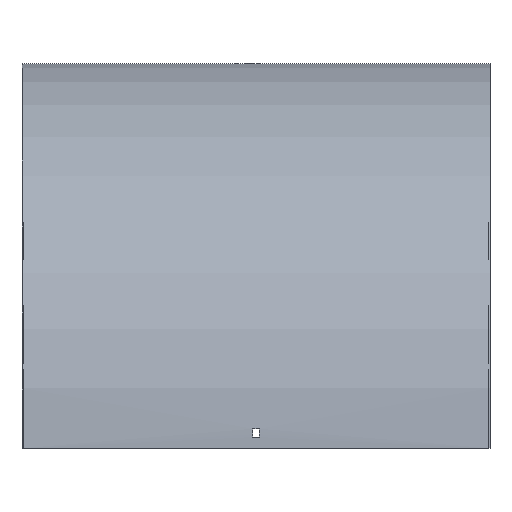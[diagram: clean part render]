
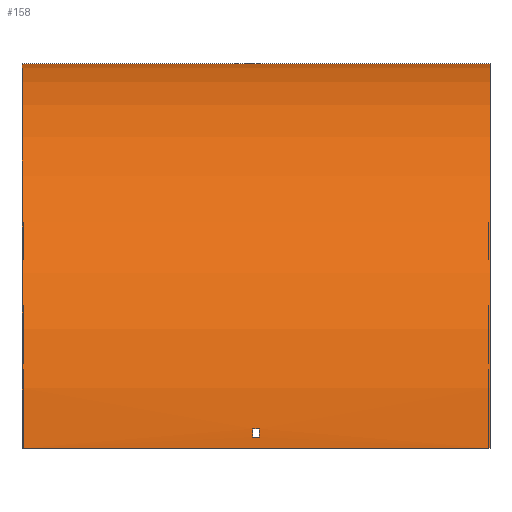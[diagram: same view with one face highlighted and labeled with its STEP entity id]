
A CAD part, top view. The second image highlights one B-rep face of the part: STEP entity #158.
In plain terms, the highlighted cylindrical face has radius 414 mm (diameter 828 mm), a partial arc.
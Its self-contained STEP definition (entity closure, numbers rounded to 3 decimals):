
#1 = ORIENTED_EDGE ( 'NONE', *, *, #324, .T. ) ;
#8 = DIRECTION ( 'NONE',  ( -1., 0., 0. ) ) ;
#10 = CARTESIAN_POINT ( 'NONE',  ( 3.25, -393., 413.467 ) ) ;
#16 = CARTESIAN_POINT ( 'NONE',  ( 251.5, -0.533, 21. ) ) ;
#18 = CIRCLE ( 'NONE', #365, 414. ) ;
#21 = EDGE_CURVE ( 'NONE', #177, #273, #175, .T. ) ;
#22 = AXIS2_PLACEMENT_3D ( 'NONE', #457, #235, #333 ) ;
#26 = CARTESIAN_POINT ( 'NONE',  ( 3.25, -0.174, 12. ) ) ;
#30 = CARTESIAN_POINT ( 'NONE',  ( -3.25, -0.533, 21. ) ) ;
#34 = CARTESIAN_POINT ( 'NONE',  ( 3.25, -402., 413.826 ) ) ;
#39 = DIRECTION ( 'NONE',  ( 0., 0., -1. ) ) ;
#44 = VECTOR ( 'NONE', #548, 1000. ) ;
#48 = CIRCLE ( 'NONE', #395, 414. ) ;
#49 = DIRECTION ( 'NONE',  ( 1., 0., 0. ) ) ;
#53 = LINE ( 'NONE', #431, #419 ) ;
#55 = CARTESIAN_POINT ( 'NONE',  ( -251.5, 0., 0. ) ) ;
#65 = DIRECTION ( 'NONE',  ( 1., 0., 0. ) ) ;
#71 = ORIENTED_EDGE ( 'NONE', *, *, #286, .F. ) ;
#82 = DIRECTION ( 'NONE',  ( 1., 0., 0. ) ) ;
#90 = CARTESIAN_POINT ( 'NONE',  ( 3.25, -0.533, 21. ) ) ;
#91 = CARTESIAN_POINT ( 'NONE',  ( 251.5, 0., 0. ) ) ;
#96 = DIRECTION ( 'NONE',  ( -1., 0., 0. ) ) ;
#103 = CARTESIAN_POINT ( 'NONE',  ( 251.5, -393., 413.467 ) ) ;
#113 = ORIENTED_EDGE ( 'NONE', *, *, #160, .F. ) ;
#128 = CARTESIAN_POINT ( 'NONE',  ( 3.25, -414., 0. ) ) ;
#135 = DIRECTION ( 'NONE',  ( 0., 0., -1. ) ) ;
#141 = CYLINDRICAL_SURFACE ( 'NONE', #442, 414. ) ;
#145 = ORIENTED_EDGE ( 'NONE', *, *, #229, .F. ) ;
#151 = DIRECTION ( 'NONE',  ( -1., 0., 0. ) ) ;
#154 = VERTEX_POINT ( 'NONE', #91 ) ;
#156 = CIRCLE ( 'NONE', #446, 414. ) ;
#158 = ADVANCED_FACE ( 'NONE', ( #231, #243, #330 ), #141, .T. ) ;
#159 = ORIENTED_EDGE ( 'NONE', *, *, #585, .F. ) ;
#160 = EDGE_CURVE ( 'NONE', #163, #396, #423, .T. ) ;
#163 = VERTEX_POINT ( 'NONE', #434 ) ;
#164 = CARTESIAN_POINT ( 'NONE',  ( -3.25, -414., 0. ) ) ;
#175 = LINE ( 'NONE', #276, #401 ) ;
#177 = VERTEX_POINT ( 'NONE', #382 ) ;
#178 = AXIS2_PLACEMENT_3D ( 'NONE', #509, #234, #135 ) ;
#183 = DIRECTION ( 'NONE',  ( 0., 0., -1. ) ) ;
#205 = VECTOR ( 'NONE', #96, 1000. ) ;
#212 = VERTEX_POINT ( 'NONE', #428 ) ;
#213 = EDGE_LOOP ( 'NONE', ( #279, #145, #539, #481 ) ) ;
#229 = EDGE_CURVE ( 'NONE', #360, #212, #53, .T. ) ;
#231 = FACE_OUTER_BOUND ( 'NONE', #213, .T. ) ;
#234 = DIRECTION ( 'NONE',  ( 1., 0., 0. ) ) ;
#235 = DIRECTION ( 'NONE',  ( -1., 0., 0. ) ) ;
#239 = DIRECTION ( 'NONE',  ( 0., 0., 1. ) ) ;
#243 = FACE_BOUND ( 'NONE', #557, .T. ) ;
#250 = LINE ( 'NONE', #16, #44 ) ;
#253 = CARTESIAN_POINT ( 'NONE',  ( -3.25, -393., 413.467 ) ) ;
#254 = CIRCLE ( 'NONE', #357, 414. ) ;
#262 = VECTOR ( 'NONE', #480, 1000. ) ;
#266 = VERTEX_POINT ( 'NONE', #30 ) ;
#269 = ORIENTED_EDGE ( 'NONE', *, *, #21, .T. ) ;
#272 = VECTOR ( 'NONE', #551, 1000. ) ;
#273 = VERTEX_POINT ( 'NONE', #26 ) ;
#276 = CARTESIAN_POINT ( 'NONE',  ( 251.5, -0.174, 12. ) ) ;
#279 = ORIENTED_EDGE ( 'NONE', *, *, #368, .T. ) ;
#286 = EDGE_CURVE ( 'NONE', #493, #544, #436, .T. ) ;
#290 = EDGE_CURVE ( 'NONE', #266, #177, #18, .T. ) ;
#293 = CARTESIAN_POINT ( 'NONE',  ( 251.5, 0., 0. ) ) ;
#300 = DIRECTION ( 'NONE',  ( 0., 0., 1. ) ) ;
#323 = ORIENTED_EDGE ( 'NONE', *, *, #388, .F. ) ;
#324 = EDGE_CURVE ( 'NONE', #454, #266, #250, .T. ) ;
#325 = CARTESIAN_POINT ( 'NONE',  ( 251.5, -414., 414. ) ) ;
#330 = FACE_BOUND ( 'NONE', #463, .T. ) ;
#333 = DIRECTION ( 'NONE',  ( 0., 0., 1. ) ) ;
#334 = LINE ( 'NONE', #293, #205 ) ;
#357 = AXIS2_PLACEMENT_3D ( 'NONE', #164, #65, #532 ) ;
#360 = VERTEX_POINT ( 'NONE', #325 ) ;
#365 = AXIS2_PLACEMENT_3D ( 'NONE', #408, #151, #300 ) ;
#368 = EDGE_CURVE ( 'NONE', #543, #212, #156, .T. ) ;
#378 = CARTESIAN_POINT ( 'NONE',  ( 251.5, -414., 0. ) ) ;
#382 = CARTESIAN_POINT ( 'NONE',  ( -3.25, -0.174, 12. ) ) ;
#385 = EDGE_CURVE ( 'NONE', #154, #360, #389, .T. ) ;
#388 = EDGE_CURVE ( 'NONE', #396, #493, #495, .T. ) ;
#389 = CIRCLE ( 'NONE', #178, 414. ) ;
#395 = AXIS2_PLACEMENT_3D ( 'NONE', #128, #422, #183 ) ;
#396 = VERTEX_POINT ( 'NONE', #34 ) ;
#398 = ORIENTED_EDGE ( 'NONE', *, *, #416, .T. ) ;
#401 = VECTOR ( 'NONE', #82, 1000. ) ;
#408 = CARTESIAN_POINT ( 'NONE',  ( -3.25, -414., 0. ) ) ;
#416 = EDGE_CURVE ( 'NONE', #273, #454, #48, .T. ) ;
#419 = VECTOR ( 'NONE', #8, 1000. ) ;
#422 = DIRECTION ( 'NONE',  ( 1., 0., 0. ) ) ;
#423 = LINE ( 'NONE', #572, #262 ) ;
#428 = CARTESIAN_POINT ( 'NONE',  ( -251.5, -414., 414. ) ) ;
#431 = CARTESIAN_POINT ( 'NONE',  ( 251.5, -414., 414. ) ) ;
#434 = CARTESIAN_POINT ( 'NONE',  ( -3.25, -402., 413.826 ) ) ;
#436 = LINE ( 'NONE', #103, #272 ) ;
#442 = AXIS2_PLACEMENT_3D ( 'NONE', #378, #475, #239 ) ;
#446 = AXIS2_PLACEMENT_3D ( 'NONE', #469, #49, #39 ) ;
#454 = VERTEX_POINT ( 'NONE', #90 ) ;
#457 = CARTESIAN_POINT ( 'NONE',  ( 3.25, -414., 0. ) ) ;
#463 = EDGE_LOOP ( 'NONE', ( #159, #71, #323, #113 ) ) ;
#469 = CARTESIAN_POINT ( 'NONE',  ( -251.5, -414., 0. ) ) ;
#475 = DIRECTION ( 'NONE',  ( -1., 0., 0. ) ) ;
#480 = DIRECTION ( 'NONE',  ( 1., 0., 0. ) ) ;
#481 = ORIENTED_EDGE ( 'NONE', *, *, #538, .T. ) ;
#493 = VERTEX_POINT ( 'NONE', #10 ) ;
#495 = CIRCLE ( 'NONE', #22, 414. ) ;
#498 = ORIENTED_EDGE ( 'NONE', *, *, #290, .T. ) ;
#509 = CARTESIAN_POINT ( 'NONE',  ( 251.5, -414., 0. ) ) ;
#532 = DIRECTION ( 'NONE',  ( 0., 1., 0. ) ) ;
#538 = EDGE_CURVE ( 'NONE', #154, #543, #334, .T. ) ;
#539 = ORIENTED_EDGE ( 'NONE', *, *, #385, .F. ) ;
#543 = VERTEX_POINT ( 'NONE', #55 ) ;
#544 = VERTEX_POINT ( 'NONE', #253 ) ;
#548 = DIRECTION ( 'NONE',  ( -1., 0., 0. ) ) ;
#551 = DIRECTION ( 'NONE',  ( -1., 0., 0. ) ) ;
#557 = EDGE_LOOP ( 'NONE', ( #1, #498, #269, #398 ) ) ;
#572 = CARTESIAN_POINT ( 'NONE',  ( 251.5, -402., 413.826 ) ) ;
#585 = EDGE_CURVE ( 'NONE', #544, #163, #254, .T. ) ;
